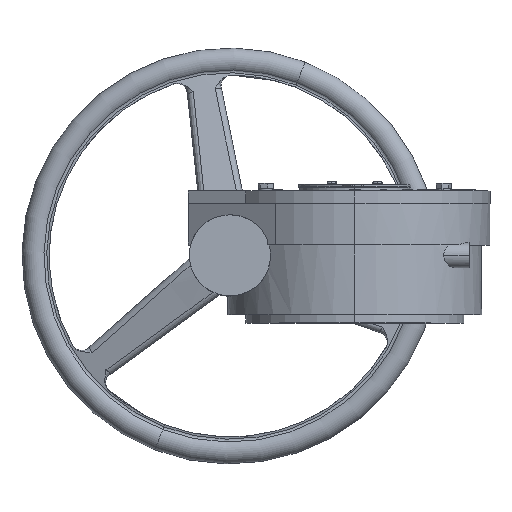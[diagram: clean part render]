
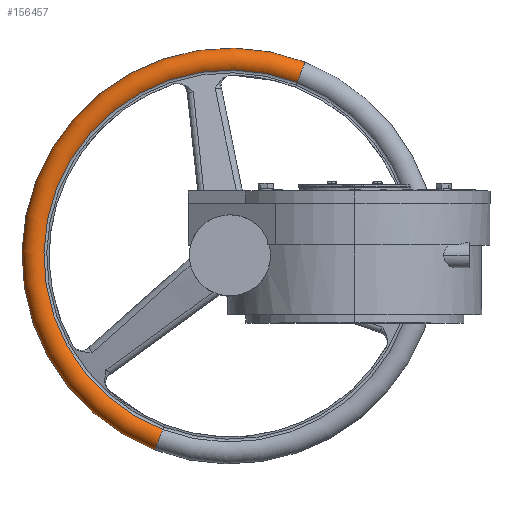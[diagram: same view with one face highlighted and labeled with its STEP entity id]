
A CAD part, top view. The second image highlights one B-rep face of the part: STEP entity #156457.
In plain terms, the highlighted toroidal (fillet/blend) face has major radius 7.388 mm and minor radius 0.492 mm.
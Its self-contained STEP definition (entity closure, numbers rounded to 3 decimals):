
#152858 = VERTEX_POINT('',#152859);
#152859 = CARTESIAN_POINT('',(-19.762,-54.6,
    69.111));
#152867 = TOROIDAL_SURFACE('',#152868,6.965,0.118);
#152868 = AXIS2_PLACEMENT_3D('',#152869,#152870,#152871);
#152869 = CARTESIAN_POINT('',(-17.216,-48.03,69.196));
#152870 = DIRECTION('',(0.,0.,1.));
#152871 = DIRECTION('',(-0.361,-0.932,
    0.));
#152886 = EDGE_CURVE('',#152887,#152858,#152889,.T.);
#152887 = VERTEX_POINT('',#152888);
#152888 = CARTESIAN_POINT('',(-14.669,-41.46,
    69.111));
#152889 = SURFACE_CURVE('',#152890,(#152895,#152902),.PCURVE_S1.);
#152890 = CIRCLE('',#152891,7.047);
#152891 = AXIS2_PLACEMENT_3D('',#152892,#152893,#152894);
#152892 = CARTESIAN_POINT('',(-17.216,-48.03,69.111));
#152893 = DIRECTION('',(0.,0.,1.));
#152894 = DIRECTION('',(-0.361,-0.932,
    0.));
#152895 = PCURVE('',#152867,#152896);
#152896 = DEFINITIONAL_REPRESENTATION('',(#152897),#152901);
#152897 = LINE('',#152898,#152899);
#152898 = CARTESIAN_POINT('',(0.,5.477));
#152899 = VECTOR('',#152900,1.);
#152900 = DIRECTION('',(1.,0.));
#152901 = ( GEOMETRIC_REPRESENTATION_CONTEXT(2) 
PARAMETRIC_REPRESENTATION_CONTEXT() REPRESENTATION_CONTEXT('2D SPACE',''
  ) );
#152902 = PCURVE('',#152903,#152908);
#152903 = TOROIDAL_SURFACE('',#152904,7.388,0.493);
#152904 = AXIS2_PLACEMENT_3D('',#152905,#152906,#152907);
#152905 = CARTESIAN_POINT('',(-17.216,-48.03,68.755));
#152906 = DIRECTION('',(0.,0.,1.));
#152907 = DIRECTION('',(-0.361,-0.932,
    0.));
#152908 = DEFINITIONAL_REPRESENTATION('',(#152909),#152913);
#152909 = LINE('',#152910,#152911);
#152910 = CARTESIAN_POINT('',(0.,8.619));
#152911 = VECTOR('',#152912,1.);
#152912 = DIRECTION('',(1.,0.));
#152913 = ( GEOMETRIC_REPRESENTATION_CONTEXT(2) 
PARAMETRIC_REPRESENTATION_CONTEXT() REPRESENTATION_CONTEXT('2D SPACE',''
  ) );
#152963 = VERTEX_POINT('',#152964);
#152964 = CARTESIAN_POINT('',(-19.724,-54.501,
    68.549));
#152965 = VERTEX_POINT('',#152966);
#152966 = CARTESIAN_POINT('',(-14.708,-41.559,
    68.549));
#152974 = TOROIDAL_SURFACE('',#152975,7.388,0.493);
#152975 = AXIS2_PLACEMENT_3D('',#152976,#152977,#152978);
#152976 = CARTESIAN_POINT('',(-17.216,-48.03,68.755));
#152977 = DIRECTION('',(0.,0.,1.));
#152978 = DIRECTION('',(-0.361,-0.932,
    0.));
#152993 = EDGE_CURVE('',#152965,#152887,#152994,.T.);
#152994 = SURFACE_CURVE('',#152995,(#153000,#153007),.PCURVE_S1.);
#152995 = CIRCLE('',#152996,0.493);
#152996 = AXIS2_PLACEMENT_3D('',#152997,#152998,#152999);
#152997 = CARTESIAN_POINT('',(-14.546,-41.142,
    68.755));
#152998 = DIRECTION('',(0.932,-0.361,
    0.));
#152999 = DIRECTION('',(0.361,0.932,0.)
  );
#153000 = PCURVE('',#152974,#153001);
#153001 = DEFINITIONAL_REPRESENTATION('',(#153002),#153006);
#153002 = LINE('',#153003,#153004);
#153003 = CARTESIAN_POINT('',(3.142,0.));
#153004 = VECTOR('',#153005,1.);
#153005 = DIRECTION('',(0.,1.));
#153006 = ( GEOMETRIC_REPRESENTATION_CONTEXT(2) 
PARAMETRIC_REPRESENTATION_CONTEXT() REPRESENTATION_CONTEXT('2D SPACE',''
  ) );
#153007 = PCURVE('',#152903,#153008);
#153008 = DEFINITIONAL_REPRESENTATION('',(#153009),#153013);
#153009 = LINE('',#153010,#153011);
#153010 = CARTESIAN_POINT('',(3.142,0.));
#153011 = VECTOR('',#153012,1.);
#153012 = DIRECTION('',(0.,1.));
#153013 = ( GEOMETRIC_REPRESENTATION_CONTEXT(2) 
PARAMETRIC_REPRESENTATION_CONTEXT() REPRESENTATION_CONTEXT('2D SPACE',''
  ) );
#153037 = EDGE_CURVE('',#152963,#152858,#153038,.T.);
#153038 = SURFACE_CURVE('',#153039,(#153044,#153051),.PCURVE_S1.);
#153039 = CIRCLE('',#153040,0.493);
#153040 = AXIS2_PLACEMENT_3D('',#153041,#153042,#153043);
#153041 = CARTESIAN_POINT('',(-19.886,-54.918,
    68.755));
#153042 = DIRECTION('',(-0.932,0.361,
    0.));
#153043 = DIRECTION('',(-0.361,-0.932,
    0.));
#153044 = PCURVE('',#152974,#153045);
#153045 = DEFINITIONAL_REPRESENTATION('',(#153046),#153050);
#153046 = LINE('',#153047,#153048);
#153047 = CARTESIAN_POINT('',(0.,0.));
#153048 = VECTOR('',#153049,1.);
#153049 = DIRECTION('',(0.,1.));
#153050 = ( GEOMETRIC_REPRESENTATION_CONTEXT(2) 
PARAMETRIC_REPRESENTATION_CONTEXT() REPRESENTATION_CONTEXT('2D SPACE',''
  ) );
#153051 = PCURVE('',#152903,#153052);
#153052 = DEFINITIONAL_REPRESENTATION('',(#153053),#153057);
#153053 = LINE('',#153054,#153055);
#153054 = CARTESIAN_POINT('',(6.283,0.));
#153055 = VECTOR('',#153056,1.);
#153056 = DIRECTION('',(0.,1.));
#153057 = ( GEOMETRIC_REPRESENTATION_CONTEXT(2) 
PARAMETRIC_REPRESENTATION_CONTEXT() REPRESENTATION_CONTEXT('2D SPACE',''
  ) );
#153072 = TOROIDAL_SURFACE('',#153073,6.833,0.118);
#153073 = AXIS2_PLACEMENT_3D('',#153074,#153075,#153076);
#153074 = CARTESIAN_POINT('',(-17.216,-48.03,68.499));
#153075 = DIRECTION('',(0.,0.,1.));
#153076 = DIRECTION('',(-0.361,-0.932,
    0.));
#154331 = EDGE_CURVE('',#152965,#152963,#154332,.T.);
#154332 = SURFACE_CURVE('',#154333,(#154338,#154345),.PCURVE_S1.);
#154333 = CIRCLE('',#154334,6.94);
#154334 = AXIS2_PLACEMENT_3D('',#154335,#154336,#154337);
#154335 = CARTESIAN_POINT('',(-17.216,-48.03,68.549));
#154336 = DIRECTION('',(0.,0.,1.));
#154337 = DIRECTION('',(-0.361,-0.932,
    0.));
#154338 = PCURVE('',#153072,#154339);
#154339 = DEFINITIONAL_REPRESENTATION('',(#154340),#154344);
#154340 = LINE('',#154341,#154342);
#154341 = CARTESIAN_POINT('',(0.,0.433));
#154342 = VECTOR('',#154343,1.);
#154343 = DIRECTION('',(1.,0.));
#154344 = ( GEOMETRIC_REPRESENTATION_CONTEXT(2) 
PARAMETRIC_REPRESENTATION_CONTEXT() REPRESENTATION_CONTEXT('2D SPACE',''
  ) );
#154345 = PCURVE('',#152903,#154346);
#154346 = DEFINITIONAL_REPRESENTATION('',(#154347),#154351);
#154347 = LINE('',#154348,#154349);
#154348 = CARTESIAN_POINT('',(0.,3.574));
#154349 = VECTOR('',#154350,1.);
#154350 = DIRECTION('',(1.,0.));
#154351 = ( GEOMETRIC_REPRESENTATION_CONTEXT(2) 
PARAMETRIC_REPRESENTATION_CONTEXT() REPRESENTATION_CONTEXT('2D SPACE',''
  ) );
#156457 = ADVANCED_FACE('',(#156458),#152903,.T.);
#156458 = FACE_BOUND('',#156459,.T.);
#156459 = EDGE_LOOP('',(#156460,#156461,#156462,#156463));
#156460 = ORIENTED_EDGE('',*,*,#152993,.F.);
#156461 = ORIENTED_EDGE('',*,*,#154331,.T.);
#156462 = ORIENTED_EDGE('',*,*,#153037,.T.);
#156463 = ORIENTED_EDGE('',*,*,#152886,.F.);
